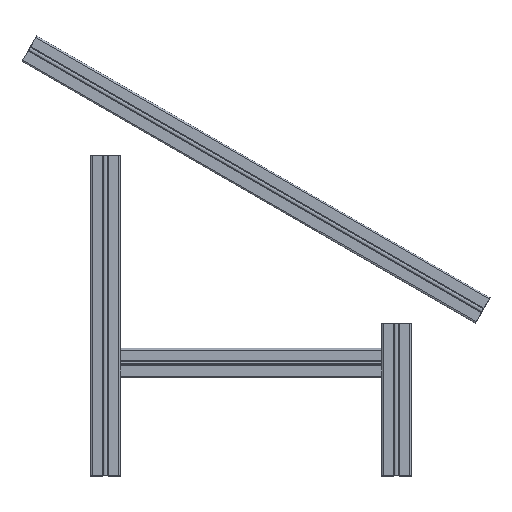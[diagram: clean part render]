
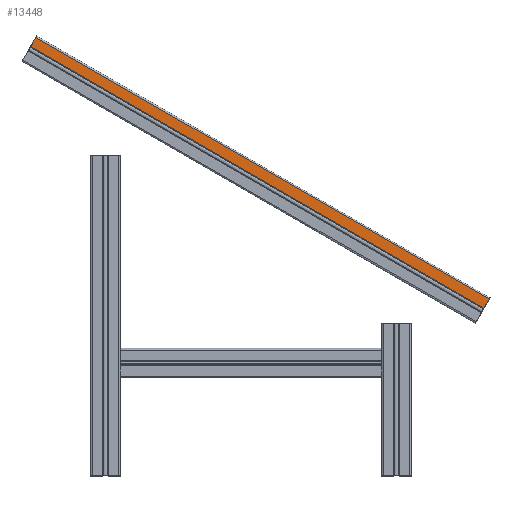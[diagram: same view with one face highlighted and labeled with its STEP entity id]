
A CAD part, top view. The second image highlights one B-rep face of the part: STEP entity #13448.
In plain terms, the highlighted planar face has unit normal (0, 0, 1).
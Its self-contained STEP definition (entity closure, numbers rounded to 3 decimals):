
#4376 = CARTESIAN_POINT ( 'NONE',  ( -106.07, 670.342, 22.5 ) ) ;
#4401 = PLANE ( 'NONE',  #4465 ) ;
#4402 = DIRECTION ( 'NONE',  ( -0.5, -0.866, 0. ) ) ;
#4403 = VECTOR ( 'NONE', #4402, 1000. ) ;
#4404 = CARTESIAN_POINT ( 'NONE',  ( -106.07, 670.342, 22.5 ) ) ;
#4405 = LINE ( 'NONE', #4404, #4403 ) ;
#4406 = CARTESIAN_POINT ( 'NONE',  ( 586.75, 270.342, 22.5 ) ) ;
#4408 = DIRECTION ( 'NONE',  ( -0.866, 0.5, 0. ) ) ;
#4409 = VECTOR ( 'NONE', #4408, 1000. ) ;
#4410 = CARTESIAN_POINT ( 'NONE',  ( 586.75, 270.342, 22.5 ) ) ;
#4411 = LINE ( 'NONE', #4410, #4409 ) ;
#4412 = CARTESIAN_POINT ( 'NONE',  ( -113.995, 656.617, 22.5 ) ) ;
#4417 = CARTESIAN_POINT ( 'NONE',  ( 578.826, 256.617, 22.5 ) ) ;
#4418 = CARTESIAN_POINT ( 'NONE',  ( 586.75, 270.342, 22.5 ) ) ;
#4458 = DIRECTION ( 'NONE',  ( -0.866, 0.5, 0. ) ) ;
#4459 = VECTOR ( 'NONE', #4458, 1000. ) ;
#4460 = CARTESIAN_POINT ( 'NONE',  ( 578.826, 256.617, 22.5 ) ) ;
#4462 = DIRECTION ( 'NONE',  ( -1., 0., 0. ) ) ;
#4463 = DIRECTION ( 'NONE',  ( 0., 0., -1. ) ) ;
#4464 = LINE ( 'NONE', #4460, #4459 ) ;
#4465 = AXIS2_PLACEMENT_3D ( 'NONE', #4406, #4463, #4462 ) ;
#4468 = FACE_OUTER_BOUND ( 'NONE', #13433, .T. ) ;
#4552 = DIRECTION ( 'NONE',  ( -0.5, -0.866, 0. ) ) ;
#4553 = VECTOR ( 'NONE', #4552, 1000. ) ;
#4554 = CARTESIAN_POINT ( 'NONE',  ( 586.75, 270.342, 22.5 ) ) ;
#4556 = LINE ( 'NONE', #4554, #4553 ) ;
#13432 = VERTEX_POINT ( 'NONE', #4376 ) ;
#13433 = EDGE_LOOP ( 'NONE', ( #13436, #13449, #13495, #13441 ) ) ;
#13436 = ORIENTED_EDGE ( 'NONE', *, *, #13438, .T. ) ;
#13437 = EDGE_CURVE ( 'NONE', #13440, #13432, #4411, .T. ) ;
#13438 = EDGE_CURVE ( 'NONE', #13432, #13443, #4405, .T. ) ;
#13440 = VERTEX_POINT ( 'NONE', #4418 ) ;
#13441 = ORIENTED_EDGE ( 'NONE', *, *, #13437, .T. ) ;
#13443 = VERTEX_POINT ( 'NONE', #4412 ) ;
#13446 = VERTEX_POINT ( 'NONE', #4417 ) ;
#13448 = ADVANCED_FACE ( 'NONE', ( #4468 ), #4401, .F. ) ;
#13449 = ORIENTED_EDGE ( 'NONE', *, *, #13450, .F. ) ;
#13450 = EDGE_CURVE ( 'NONE', #13446, #13443, #4464, .T. ) ;
#13492 = EDGE_CURVE ( 'NONE', #13440, #13446, #4556, .T. ) ;
#13495 = ORIENTED_EDGE ( 'NONE', *, *, #13492, .F. ) ;
